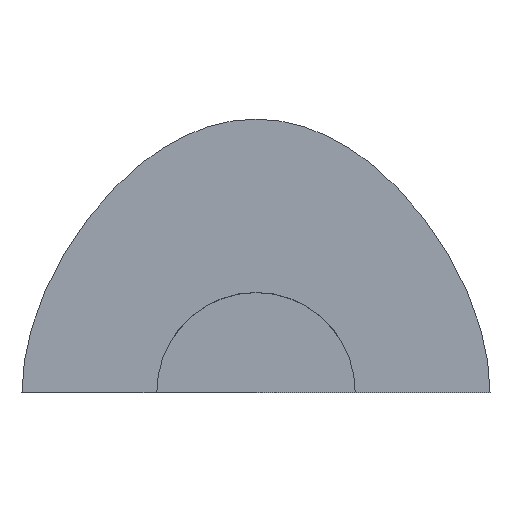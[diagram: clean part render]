
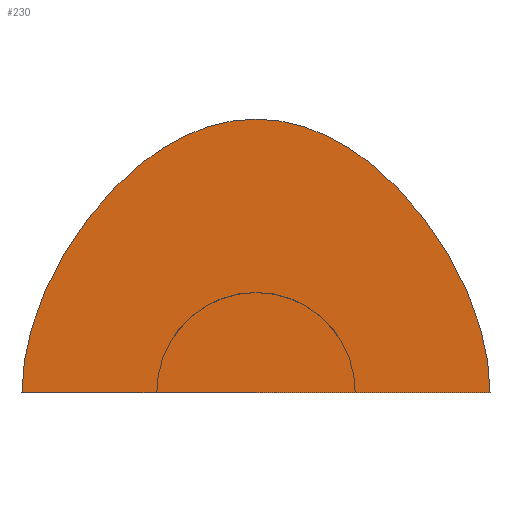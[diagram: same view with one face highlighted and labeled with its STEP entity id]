
A CAD part, top view. The second image highlights one B-rep face of the part: STEP entity #230.
In plain terms, the highlighted planar face has unit normal (0, 0, 1).
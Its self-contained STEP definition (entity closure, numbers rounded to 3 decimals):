
#193=CARTESIAN_POINT('Axis2P3D Location',(0.,56.062,0.)) ;
#198=CARTESIAN_POINT('Line Origine',(0.,0.,0.)) ;
#202=CARTESIAN_POINT('Vertex',(-118.,0.,0.)) ;
#204=CARTESIAN_POINT('Vertex',(118.,0.,0.)) ;
#208=CARTESIAN_POINT('Control Point',(0.,138.,0.)) ;
#209=CARTESIAN_POINT('Control Point',(36.314,138.,0.)) ;
#210=CARTESIAN_POINT('Control Point',(70.353,117.118,0.)) ;
#211=CARTESIAN_POINT('Control Point',(102.118,75.353,0.)) ;
#212=CARTESIAN_POINT('Control Point',(118.,36.314,0.)) ;
#213=CARTESIAN_POINT('Control Point',(118.,0.,0.)) ;
#214=CARTESIAN_POINT('Vertex',(0.,138.,0.)) ;
#218=CARTESIAN_POINT('Control Point',(0.,138.,0.)) ;
#219=CARTESIAN_POINT('Control Point',(-36.314,138.,0.)) ;
#220=CARTESIAN_POINT('Control Point',(-70.353,117.118,0.)) ;
#221=CARTESIAN_POINT('Control Point',(-102.118,75.353,0.)) ;
#222=CARTESIAN_POINT('Control Point',(-118.,36.314,0.)) ;
#223=CARTESIAN_POINT('Control Point',(-118.,0.,0.)) ;
#194=DIRECTION('Axis2P3D Direction',(0.,0.,1.)) ;
#195=DIRECTION('Axis2P3D XDirection',(1.,0.,0.)) ;
#199=DIRECTION('Vector Direction',(1.,0.,0.)) ;
#196=AXIS2_PLACEMENT_3D('Plane Axis2P3D',#193,#194,#195) ;
#226=ORIENTED_EDGE('',*,*,#206,.T.) ;
#227=ORIENTED_EDGE('',*,*,#216,.T.) ;
#228=ORIENTED_EDGE('',*,*,#224,.T.) ;
#200=VECTOR('Line Direction',#199,1.) ;
#230=ADVANCED_FACE('Fill.1',(#229),#197,.T.) ;
#207=B_SPLINE_CURVE_WITH_KNOTS('',5,(#208,#209,#210,#211,#212,#213),.UNSPECIFIED.,.F.,.U.,(6,6),(0.,181.571),.UNSPECIFIED.) ;
#217=B_SPLINE_CURVE_WITH_KNOTS('',5,(#218,#219,#220,#221,#222,#223),.UNSPECIFIED.,.F.,.U.,(6,6),(0.,181.571),.UNSPECIFIED.) ;
#206=EDGE_CURVE('',#203,#205,#201,.T.) ;
#216=EDGE_CURVE('',#205,#215,#207,.F.) ;
#224=EDGE_CURVE('',#215,#203,#217,.T.) ;
#225=EDGE_LOOP('',(#226,#227,#228)) ;
#229=FACE_OUTER_BOUND('',#225,.T.) ;
#201=LINE('Line',#198,#200) ;
#197=PLANE('',#196) ;
#203=VERTEX_POINT('',#202) ;
#205=VERTEX_POINT('',#204) ;
#215=VERTEX_POINT('',#214) ;
